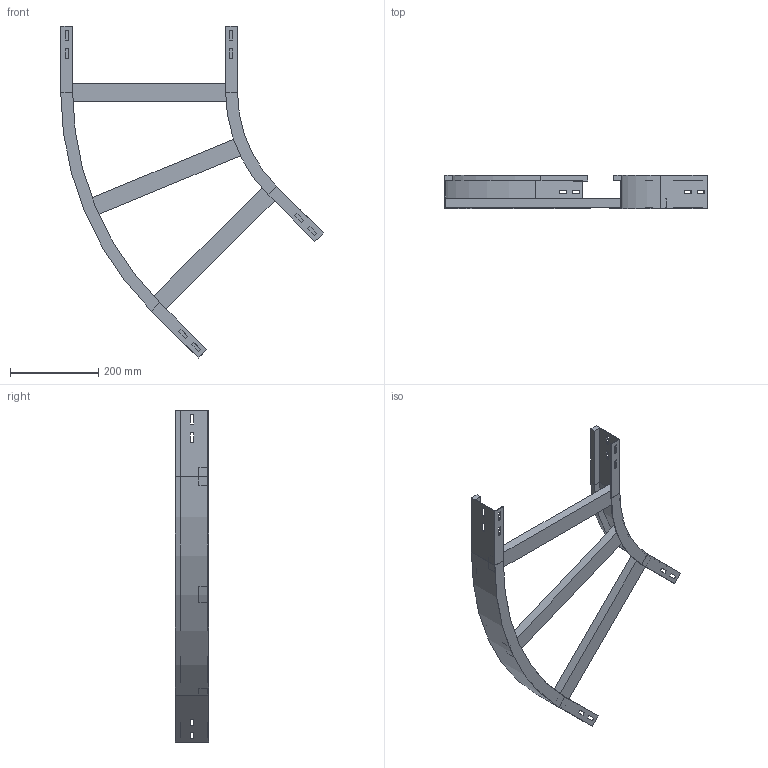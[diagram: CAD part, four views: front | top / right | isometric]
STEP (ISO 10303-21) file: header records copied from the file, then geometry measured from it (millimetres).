
FILE_DESCRIPTION (( 'STEP AP214' ), '1' );
FILE_NAME ('A2_11B3C400.step', '2025-02-21T15:16:02', ( '' ), ( '' ), 'SwSTEP 2.0', 'SolidWorks 2023', '' );
FILE_SCHEMA (( 'AUTOMOTIVE_DESIGN' ));
Length unit declared in the file: millimetre
Products named in the file (4): A2_LONGH.INTERNO 45°_H75_R300; A2_11B3C400; A2_LONGH.ESTERNO 45°_H75_R300+400; TRAVERSINO_400
Assembly tree (5 placements, depth 2):
  A2_11B3C400
    A2_LONGH.INTERNO 45°_H75_R300
    A2_LONGH.ESTERNO 45°_H75_R300+400
    TRAVERSINO_400  x3
Bounding box: 593.93 x 75 x 751.04 mm (x, y, z)
Volume: 1500428.1 mm3; surface area: 474058 mm2
Topology: 5 solids, 5 shells, 134 faces, 340 edges, 216 vertices
Faces by surface type: plane 126, cylinder 8
Entity records: 3821 total; most frequent: CARTESIAN_POINT 646, ORIENTED_EDGE 632, DIRECTION 592, EDGE_CURVE 316, VECTOR 300, LINE 300, VERTEX_POINT 200, EDGE_LOOP 154
